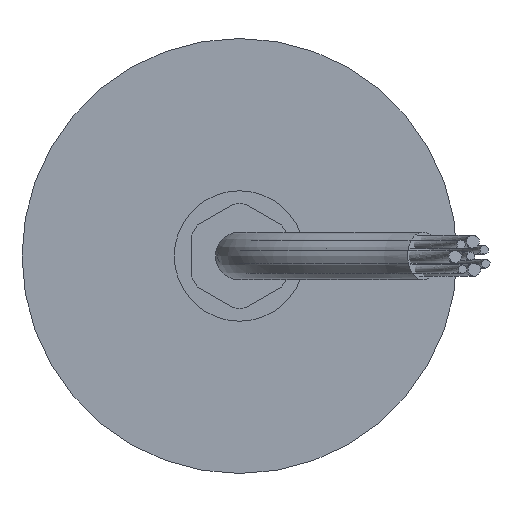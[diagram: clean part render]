
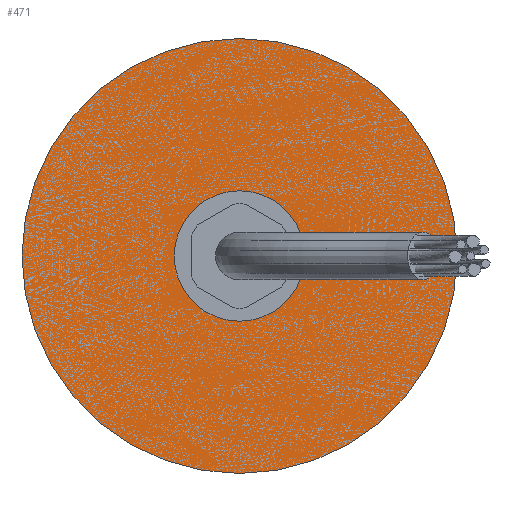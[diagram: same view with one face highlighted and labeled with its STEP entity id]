
A CAD part, left-side view. The second image highlights one B-rep face of the part: STEP entity #471.
In plain terms, the highlighted planar face has unit normal (-1, 0, 0).
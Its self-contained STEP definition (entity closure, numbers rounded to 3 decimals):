
#372=PLANE('',#1473);
#416=FACE_OUTER_BOUND('',#702,.T.);
#471=ADVANCED_FACE('',(#416),#372,.F.);
#702=EDGE_LOOP('',(#862));
#862=ORIENTED_EDGE('',*,*,#1250,.F.);
#1136=VERTEX_POINT('',#2059);
#1250=EDGE_CURVE('',#1136,#1136,#1388,.T.);
#1388=CIRCLE('',#1470,25.);
#1470=AXIS2_PLACEMENT_3D('',#2058,#1651,#1652);
#1473=AXIS2_PLACEMENT_3D('',#2063,#1657,#1658);
#1651=DIRECTION('',(1.,0.,0.));
#1652=DIRECTION('',(0.,1.,0.));
#1657=DIRECTION('',(1.,0.,0.));
#1658=DIRECTION('',(0.,0.,-1.));
#2058=CARTESIAN_POINT('',(0.,0.,0.));
#2059=CARTESIAN_POINT('',(0.,25.,0.));
#2063=CARTESIAN_POINT('',(0.,0.,0.));
